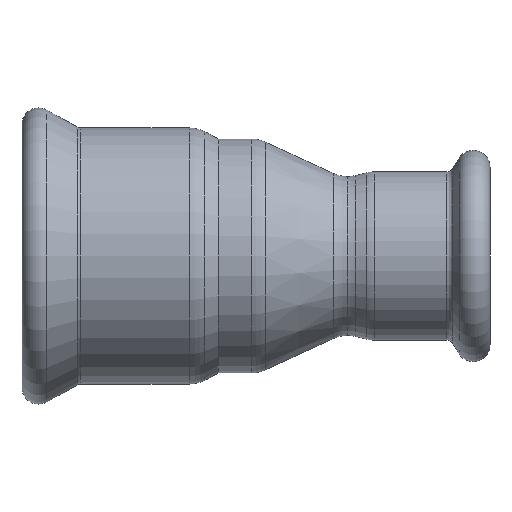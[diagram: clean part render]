
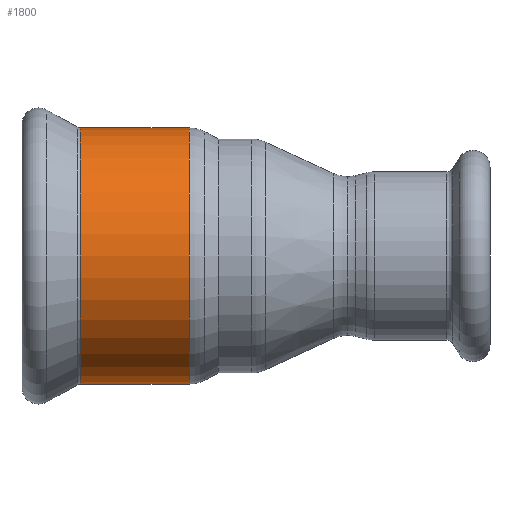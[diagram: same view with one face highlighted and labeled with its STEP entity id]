
A CAD part, front view. The second image highlights one B-rep face of the part: STEP entity #1800.
In plain terms, the highlighted cylindrical face has radius 19.15 mm (diameter 38.3 mm), a partial arc.
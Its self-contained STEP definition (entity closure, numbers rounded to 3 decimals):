
#16 = ORIENTED_EDGE ( 'NONE', *, *, #2495, .T. ) ;
#119 = CARTESIAN_POINT ( 'NONE',  ( -11.929, 0., 0. ) ) ;
#132 = LINE ( 'NONE', #2738, #2961 ) ;
#176 = AXIS2_PLACEMENT_3D ( 'NONE', #774, #798, #1722 ) ;
#300 = CIRCLE ( 'NONE', #2705, 19.15 ) ;
#417 = EDGE_CURVE ( 'NONE', #1726, #2325, #2121, .T. ) ;
#520 = EDGE_CURVE ( 'NONE', #1726, #2108, #1865, .T. ) ;
#565 = FACE_OUTER_BOUND ( 'NONE', #1546, .T. ) ;
#620 = VERTEX_POINT ( 'NONE', #2274 ) ;
#677 = EDGE_CURVE ( 'NONE', #620, #2108, #300, .T. ) ;
#751 = CARTESIAN_POINT ( 'NONE',  ( -11.929, 0., 19.15 ) ) ;
#774 = CARTESIAN_POINT ( 'NONE',  ( -44.93, 0., 0. ) ) ;
#798 = DIRECTION ( 'NONE',  ( -1., 0., 0. ) ) ;
#936 = DIRECTION ( 'NONE',  ( 1., 0., 0. ) ) ;
#992 = AXIS2_PLACEMENT_3D ( 'NONE', #119, #1055, #1039 ) ;
#1039 = DIRECTION ( 'NONE',  ( 0., 0., -1. ) ) ;
#1055 = DIRECTION ( 'NONE',  ( -1., 0., 0. ) ) ;
#1084 = CARTESIAN_POINT ( 'NONE',  ( -28.212, 0., -19.15 ) ) ;
#1274 = CYLINDRICAL_SURFACE ( 'NONE', #176, 19.15 ) ;
#1386 = DIRECTION ( 'NONE',  ( 0., 0., 1. ) ) ;
#1542 = CARTESIAN_POINT ( 'NONE',  ( -28.212, 0., 0. ) ) ;
#1546 = EDGE_LOOP ( 'NONE', ( #2905, #1769, #16, #2119 ) ) ;
#1667 = DIRECTION ( 'NONE',  ( -1., 0., 0. ) ) ;
#1722 = DIRECTION ( 'NONE',  ( 0., 0., 1. ) ) ;
#1726 = VERTEX_POINT ( 'NONE', #2364 ) ;
#1769 = ORIENTED_EDGE ( 'NONE', *, *, #417, .T. ) ;
#1800 = ADVANCED_FACE ( 'NONE', ( #565 ), #1274, .T. ) ;
#1865 = LINE ( 'NONE', #2357, #2074 ) ;
#2074 = VECTOR ( 'NONE', #1667, 1000. ) ;
#2108 = VERTEX_POINT ( 'NONE', #1084 ) ;
#2119 = ORIENTED_EDGE ( 'NONE', *, *, #677, .T. ) ;
#2121 = CIRCLE ( 'NONE', #992, 19.15 ) ;
#2274 = CARTESIAN_POINT ( 'NONE',  ( -28.212, 0., 19.15 ) ) ;
#2325 = VERTEX_POINT ( 'NONE', #751 ) ;
#2357 = CARTESIAN_POINT ( 'NONE',  ( -44.93, 0., -19.15 ) ) ;
#2364 = CARTESIAN_POINT ( 'NONE',  ( -11.929, 0., -19.15 ) ) ;
#2495 = EDGE_CURVE ( 'NONE', #2325, #620, #132, .T. ) ;
#2705 = AXIS2_PLACEMENT_3D ( 'NONE', #1542, #936, #1386 ) ;
#2738 = CARTESIAN_POINT ( 'NONE',  ( -44.93, 0., 19.15 ) ) ;
#2905 = ORIENTED_EDGE ( 'NONE', *, *, #520, .F. ) ;
#2907 = DIRECTION ( 'NONE',  ( -1., 0., 0. ) ) ;
#2961 = VECTOR ( 'NONE', #2907, 1000. ) ;
